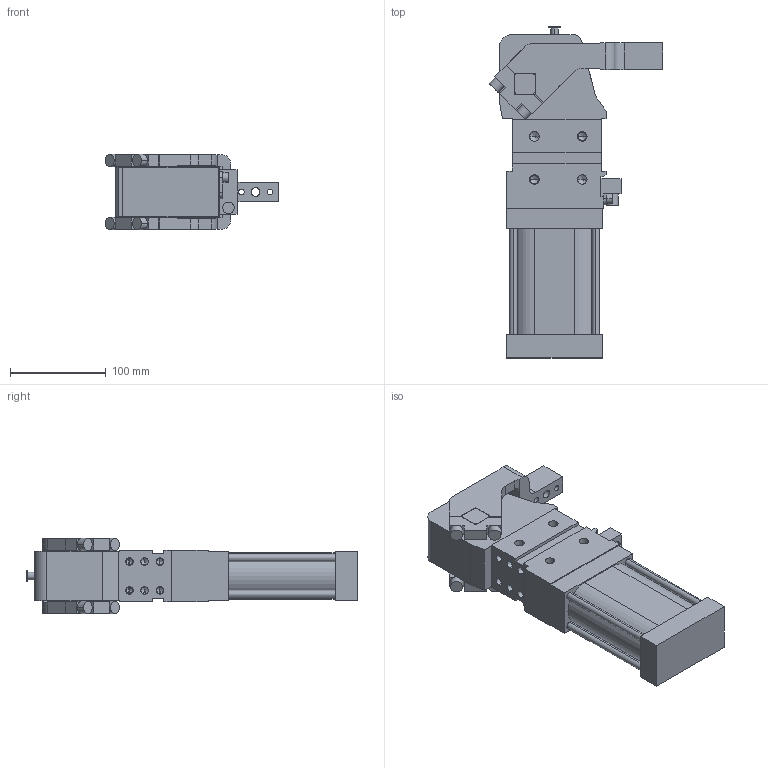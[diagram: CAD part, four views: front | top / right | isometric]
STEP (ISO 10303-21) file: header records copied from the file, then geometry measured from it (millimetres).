
FILE_DESCRIPTION (( 'STEP AP214' ), '1' );
FILE_NAME ('cpl63v1csi1g_16.STEP', '2023-01-26T10:24:29', ( '' ), ( '' ), 'SwSTEP 2.0', 'SolidWorks 2022', '' );
FILE_SCHEMA (( 'AUTOMOTIVE_DESIGN' ));
Length unit declared in the file: millimetre
Products named in the file (4): meccanica_cpl_63; cpl63v1csi1g_16; blocchetto_VEP_0; leva_cx_offset_15_cpl63
Assembly tree (3 placements, depth 2):
  cpl63v1csi1g_16
    meccanica_cpl_63
    blocchetto_VEP_0
    leva_cx_offset_15_cpl63
Bounding box: 181.09 x 347 x 79 mm (x, y, z)
Volume: 1779035.3 mm3; surface area: 187989.7 mm2
Topology: 3 solids, 3 shells, 396 faces, 1037 edges, 639 vertices
Faces by surface type: plane 198, cylinder 148, cone 50
Entity records: 13451 total; most frequent: DIRECTION 2119, CARTESIAN_POINT 2116, ORIENTED_EDGE 1982, EDGE_CURVE 991, AXIS2_PLACEMENT_3D 732, VECTOR 655, LINE 655, VERTEX_POINT 639
